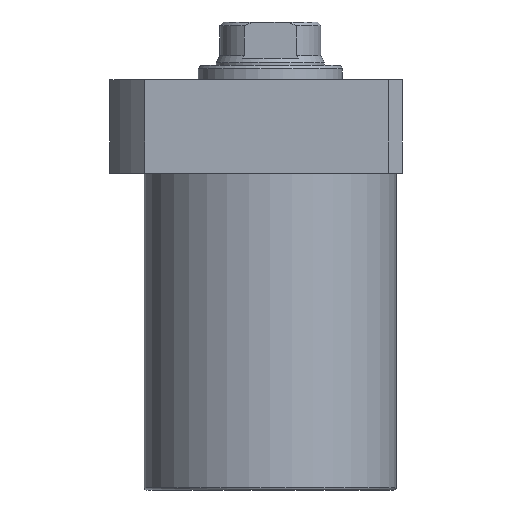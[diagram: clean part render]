
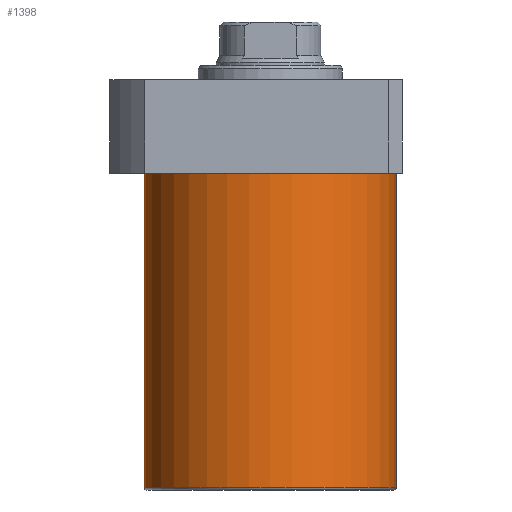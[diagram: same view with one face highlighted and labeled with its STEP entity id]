
A CAD part, front view. The second image highlights one B-rep face of the part: STEP entity #1398.
In plain terms, the highlighted cylindrical face has radius 52.5 mm (diameter 105 mm), a partial arc.
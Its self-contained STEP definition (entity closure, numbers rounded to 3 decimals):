
#16 = VERTEX_POINT ( 'NONE', #1553 ) ;
#134 = DIRECTION ( 'NONE',  ( 0., 0., 1. ) ) ;
#159 = CARTESIAN_POINT ( 'NONE',  ( 52.5, 0., -151.5 ) ) ;
#191 = CARTESIAN_POINT ( 'NONE',  ( -52.5, 0., -150.5 ) ) ;
#248 = DIRECTION ( 'NONE',  ( -1., 0., 0. ) ) ;
#269 = DIRECTION ( 'NONE',  ( 1., 0., 0. ) ) ;
#296 = AXIS2_PLACEMENT_3D ( 'NONE', #498, #1579, #659 ) ;
#359 = EDGE_LOOP ( 'NONE', ( #1966, #1487, #1625, #1811 ) ) ;
#411 = CARTESIAN_POINT ( 'NONE',  ( 0., 0., -150.5 ) ) ;
#431 = CARTESIAN_POINT ( 'NONE',  ( 52.5, 0., -150.5 ) ) ;
#450 = LINE ( 'NONE', #1430, #1322 ) ;
#498 = CARTESIAN_POINT ( 'NONE',  ( 0., 0., -19.5 ) ) ;
#659 = DIRECTION ( 'NONE',  ( 1., 0., 0. ) ) ;
#684 = EDGE_CURVE ( 'NONE', #692, #16, #450, .T. ) ;
#692 = VERTEX_POINT ( 'NONE', #191 ) ;
#730 = EDGE_CURVE ( 'NONE', #1963, #16, #1473, .T. ) ;
#770 = CARTESIAN_POINT ( 'NONE',  ( 52.5, 0., -19.5 ) ) ;
#1043 = CARTESIAN_POINT ( 'NONE',  ( 0., 0., -151.5 ) ) ;
#1084 = LINE ( 'NONE', #159, #1175 ) ;
#1137 = CYLINDRICAL_SURFACE ( 'NONE', #1947, 52.5 ) ;
#1175 = VECTOR ( 'NONE', #1835, 1000. ) ;
#1296 = CIRCLE ( 'NONE', #1856, 52.5 ) ;
#1322 = VECTOR ( 'NONE', #1547, 1000. ) ;
#1350 = VERTEX_POINT ( 'NONE', #431 ) ;
#1398 = ADVANCED_FACE ( 'NONE', ( #1877 ), #1137, .T. ) ;
#1430 = CARTESIAN_POINT ( 'NONE',  ( -52.5, 0., -151.5 ) ) ;
#1455 = EDGE_CURVE ( 'NONE', #1350, #1963, #1084, .T. ) ;
#1473 = CIRCLE ( 'NONE', #296, 52.5 ) ;
#1487 = ORIENTED_EDGE ( 'NONE', *, *, #1787, .T. ) ;
#1547 = DIRECTION ( 'NONE',  ( 0., 0., 1. ) ) ;
#1553 = CARTESIAN_POINT ( 'NONE',  ( -52.5, 0., -19.5 ) ) ;
#1579 = DIRECTION ( 'NONE',  ( 0., 0., -1. ) ) ;
#1625 = ORIENTED_EDGE ( 'NONE', *, *, #1455, .T. ) ;
#1635 = DIRECTION ( 'NONE',  ( 0., 0., 1. ) ) ;
#1787 = EDGE_CURVE ( 'NONE', #692, #1350, #1296, .T. ) ;
#1811 = ORIENTED_EDGE ( 'NONE', *, *, #730, .T. ) ;
#1835 = DIRECTION ( 'NONE',  ( 0., 0., 1. ) ) ;
#1856 = AXIS2_PLACEMENT_3D ( 'NONE', #411, #1635, #248 ) ;
#1877 = FACE_OUTER_BOUND ( 'NONE', #359, .T. ) ;
#1947 = AXIS2_PLACEMENT_3D ( 'NONE', #1043, #134, #269 ) ;
#1963 = VERTEX_POINT ( 'NONE', #770 ) ;
#1966 = ORIENTED_EDGE ( 'NONE', *, *, #684, .F. ) ;
